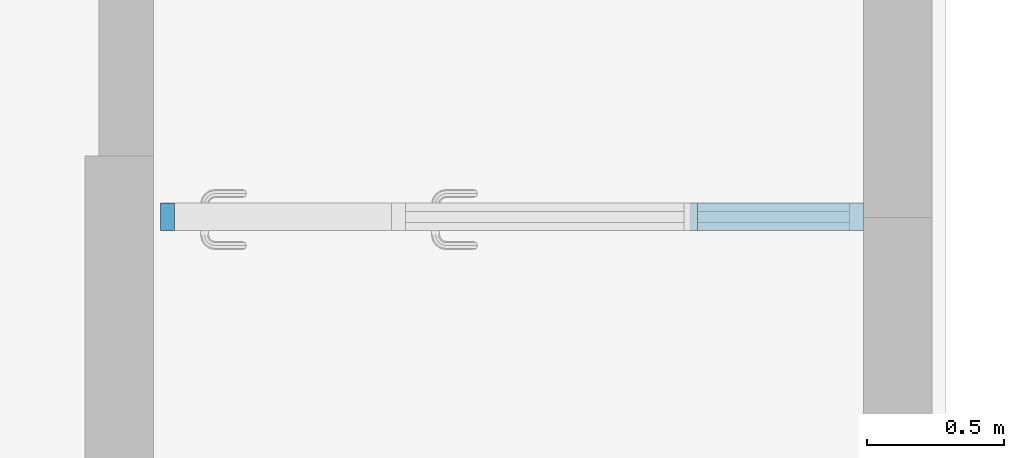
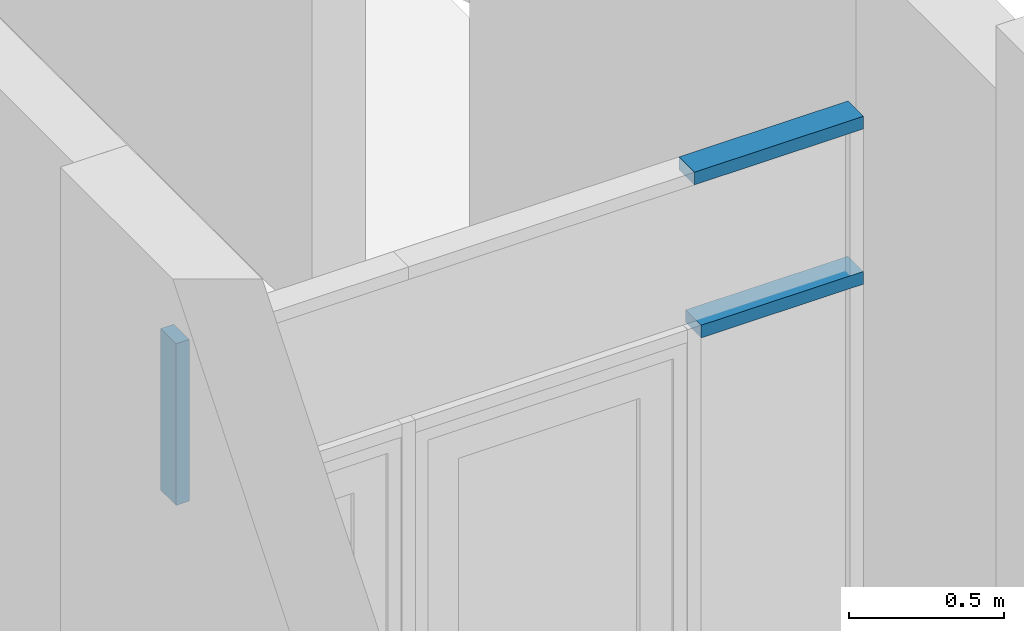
# One storey, part 4 of 9: 3 members, 1 element without a shape of its own.
"""IFC2X3 building model written with IfcOpenShell, lengths in metres."""

from ifc_helpers import new_model, entity, si_unit, converted_unit, derived_unit, direction, frame, origin, origin_2d_with_axis, place, context, subcontext, project, spatial, rectangle, extrude, source, transform, mapped, material, type_object, type_shapes, element, aggregate, save


model = new_model("IFC2X3")

# Units and contexts
model_context = context("Model", 3, precision=1e-05, world=origin(), true_north=direction((6.12303176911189e-17, 1.0)))
body_context = subcontext(model_context, "Body", "Model", "MODEL_VIEW")
ifc_project = project(units=[si_unit("LENGTHUNIT", "METRE"), si_unit("AREAUNIT", "SQUARE_METRE"), si_unit("VOLUMEUNIT", "CUBIC_METRE"), converted_unit("PLANEANGLEUNIT", "DEGREE", entity("IfcRatioMeasure", 0.0174532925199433), si_unit("PLANEANGLEUNIT", "RADIAN"), dimensions=[0, 0, 0, 0, 0, 0, 0]), si_unit("MASSUNIT", "GRAM", prefix="KILO"), derived_unit("MASSDENSITYUNIT", [(si_unit("MASSUNIT", "GRAM", prefix="KILO"), 1), (si_unit("LENGTHUNIT", "METRE"), -3)]), derived_unit("MOMENTOFINERTIAUNIT", [(si_unit("LENGTHUNIT", "METRE"), 4)]), si_unit("TIMEUNIT", "SECOND"), si_unit("FREQUENCYUNIT", "HERTZ"), si_unit("THERMODYNAMICTEMPERATUREUNIT", "DEGREE_CELSIUS"), derived_unit("THERMALTRANSMITTANCEUNIT", [(si_unit("MASSUNIT", "GRAM", prefix="KILO"), 1), (si_unit("THERMODYNAMICTEMPERATUREUNIT", "KELVIN"), -1), (si_unit("TIMEUNIT", "SECOND"), -3)]), derived_unit("VOLUMETRICFLOWRATEUNIT", [(si_unit("LENGTHUNIT", "METRE"), 3), (si_unit("TIMEUNIT", "SECOND"), -1)]), si_unit("ELECTRICCURRENTUNIT", "AMPERE"), si_unit("ELECTRICVOLTAGEUNIT", "VOLT"), si_unit("POWERUNIT", "WATT"), si_unit("FORCEUNIT", "NEWTON", prefix="KILO"), si_unit("ILLUMINANCEUNIT", "LUX"), si_unit("LUMINOUSFLUXUNIT", "LUMEN"), si_unit("LUMINOUSINTENSITYUNIT", "CANDELA"), derived_unit("USERDEFINED", [(si_unit("MASSUNIT", "GRAM", prefix="KILO"), -1), (si_unit("LENGTHUNIT", "METRE"), -2), (si_unit("TIMEUNIT", "SECOND"), 3), (si_unit("LUMINOUSFLUXUNIT", "LUMEN"), 1)]), derived_unit("LINEARVELOCITYUNIT", [(si_unit("LENGTHUNIT", "METRE"), 1), (si_unit("TIMEUNIT", "SECOND"), -1)]), si_unit("PRESSUREUNIT", "PASCAL"), derived_unit("USERDEFINED", [(si_unit("LENGTHUNIT", "METRE"), -2), (si_unit("MASSUNIT", "GRAM", prefix="KILO"), 1), (si_unit("TIMEUNIT", "SECOND"), -2)]), derived_unit("LINEARFORCEUNIT", [(si_unit("MASSUNIT", "GRAM", prefix="KILO"), 1), (si_unit("LENGTHUNIT", "METRE"), 1), (si_unit("TIMEUNIT", "SECOND"), -2), (si_unit("LENGTHUNIT", "METRE"), -1)]), derived_unit("PLANARFORCEUNIT", [(si_unit("MASSUNIT", "GRAM", prefix="KILO"), 1), (si_unit("LENGTHUNIT", "METRE"), 1), (si_unit("TIMEUNIT", "SECOND"), -2), (si_unit("LENGTHUNIT", "METRE"), -2)])], contexts=[model_context])

# Site, building, storey
site_placement = place(None, origin())
site = spatial("IfcSite", under=ifc_project, at=site_placement, Name="Default", CompositionType="ELEMENT")
building_placement = place(site_placement, origin())
building = spatial("IfcBuilding", under=site, at=building_placement, CompositionType="ELEMENT")
storey_placement = place(building_placement, frame((0.0, 0.0, 0.253308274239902)))
storey = spatial("IfcBuildingStorey", under=building, at=storey_placement, Name="Niveau 00 - 01", CompositionType="ELEMENT", Elevation=0.253308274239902)

# Curtain wall, members
curtain_wall_type = type_object("IfcCurtainWallType", Name="Mur-rideau:SANS Calpinage", PredefinedType="NOTDEFINED")
curtain_wall_placement = place(storey_placement, frame((0.0, 0.0, -0.253308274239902)))
curtain_wall = element("IfcCurtainWall", 1, at=curtain_wall_placement, inside=storey, type_object=curtain_wall_type, Name="Mur-rideau:SANS Calpinage", ObjectType="Mur-rideau:SANS Calpinage")
ifc_material = material(Name="Aluminium 2")
member_type_1 = type_object("IfcMemberType", Name="Meneau rectangulaire:50 x 100mm", PredefinedType="MULLION", material=ifc_material)
shared_shape_1 = source(origin(), body_context, "Body", "SweptSolid", [
    extrude(rectangle(XDim=0.1, YDim=0.05, at=origin_2d_with_axis()), frame((-0.025, 0.0, -0.629929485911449), z_axis=(0.0, 0.0, 1.0), x_axis=(0.0, -1.0, 0.0)), (0.0, 0.0, 1.0), 0.629929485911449),
])
type_shapes(member_type_1, [shared_shape_1])
placement_1 = place(building_placement, frame((0.0, 0.0, 0.893308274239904)))
member_1_placement = place(placement_1, frame((-4.5739186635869, -19.8976865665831, 2.35), z_axis=(-1.0, 0.0, 0.0), x_axis=(0.0, 0.0, 1.0)))
member_1 = element("IfcMember", 2, at=member_1_placement, type_object=member_type_1, material=ifc_material, Name="Meneau rectangulaire:50 x 100mm", ObjectType="Meneau rectangulaire:50 x 100mm", context=body_context, shape_type="MappedRepresentation", body=[
    mapped(shared_shape_1, transform((0.0, 0.0, 0.0), scale=1.0)),
])
member_type_2 = type_object("IfcMemberType", Name="Meneau rectangulaire:50 x 100mm", PredefinedType="MULLION", material=ifc_material)
shared_shape_2 = source(origin(), body_context, "Body", "SweptSolid", [
    extrude(rectangle(XDim=0.1, YDim=0.05, at=origin_2d_with_axis()), frame((-0.025, 0.0, -0.636666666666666), z_axis=(0.0, 0.0, 1.0), x_axis=(0.0, -1.0, 0.0)), (0.0, 0.0, 1.0), 0.636666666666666),
])
type_shapes(member_type_2, [shared_shape_2])
placement_2 = place(building_placement, origin())
member_2_placement = place(placement_2, frame((-6.50608633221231, -19.8976865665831, 2.60664160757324), z_axis=(0.0, 0.0, -1.0), x_axis=(-1.0, 0.0, 0.0)))
member_2 = element("IfcMember", 3, at=member_2_placement, type_object=member_type_2, material=ifc_material, Name="Meneau rectangulaire:50 x 100mm", ObjectType="Meneau rectangulaire:50 x 100mm", context=body_context, shape_type="MappedRepresentation", body=[
    mapped(shared_shape_2, transform((0.0, 0.0, 0.0), scale=1.0)),
])
member_type_3 = type_object("IfcMemberType", Name="Meneau rectangulaire:50 x 100mm", PredefinedType="MULLION", material=ifc_material)
shared_shape_3 = source(origin(), body_context, "Body", "SweptSolid", [
    extrude(rectangle(XDim=0.1, YDim=0.05, at=origin_2d_with_axis()), frame((0.0, 0.0, -0.60492948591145), z_axis=(0.0, 0.0, 1.0), x_axis=(0.0, -1.0, 0.0)), (0.0, 0.0, 1.0), 0.60492948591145),
])
type_shapes(member_type_3, [shared_shape_3])
member_3_placement = place(placement_2, frame((-4.5489186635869, -19.8976865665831, 2.60664160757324), z_axis=(-1.0, 0.0, 0.0), x_axis=(0.0, 0.0, 1.0)))
member_3 = element("IfcMember", 4, at=member_3_placement, type_object=member_type_3, material=ifc_material, Name="Meneau rectangulaire:50 x 100mm", ObjectType="Meneau rectangulaire:50 x 100mm", context=body_context, shape_type="MappedRepresentation", body=[
    mapped(shared_shape_3, transform((0.0, 0.0, 0.0), scale=1.0)),
])
aggregate(curtain_wall, [member_1, member_2, member_3])

save(model, "model.ifc")
